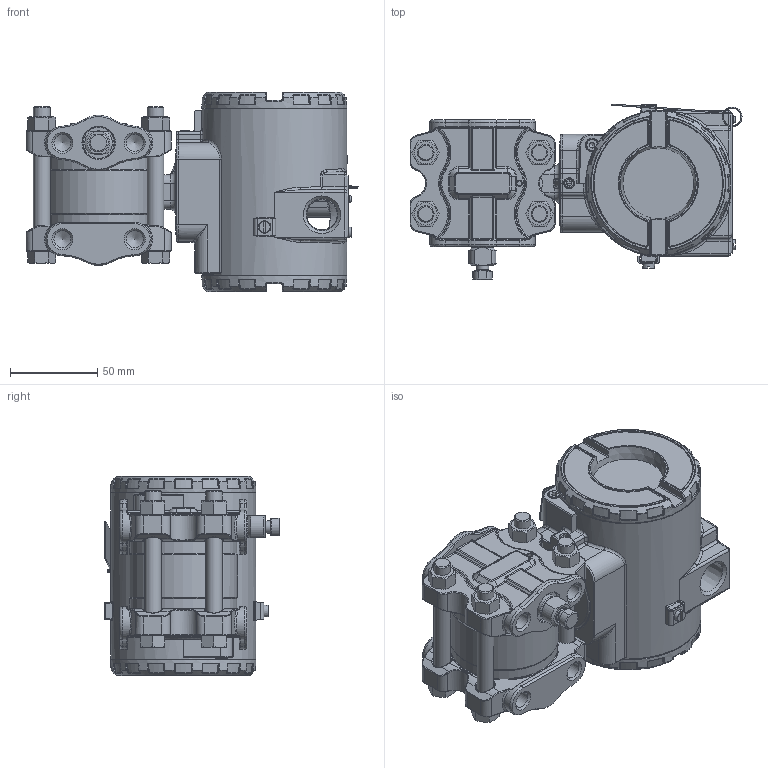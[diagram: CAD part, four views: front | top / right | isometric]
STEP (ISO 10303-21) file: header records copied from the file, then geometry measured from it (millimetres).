
FILE_DESCRIPTION(/* description */ (''),/* implementation_level */ '2;1');
FILE_NAME(/* name */ 'F:\Area\Desenvolvimento_2\Projects\Sensor\projetos\LD30X\montagens 3d - clientes\LD30XM4 1-4NPT purga oposta.stp',/* time_stamp */ '2023-01-26T13:41:10-03:00',/* author */ ('inventor02'),/* organization */ (''),/* preprocessor_version */ 'ST-DEVELOPER v17',/* originating_system */ 'Autodesk Inventor 2019',/* authorisation */ '');
FILE_SCHEMA (('CONFIG_CONTROL_DESIGN'));
Length unit declared in the file: millimetre
Products named in the file (30): LD30XM4 1-4NPT purga oposta; manometrico standard fx4 purga oposta; Flange manometrico standard; flange diferencial std sem purga; involucro fx4 apos a usinagem final; Paraf. 3-8 x 16 UNC; Porca 3-8 x 16 UNC; 075-B-0046-purgador; Sangria; carcaça vazia com tampas e plaqueta; carcaça LD inox sem letras; Subconjunto plaqueta 300; Plaqueta transmissor; Parafuso da Plaqueta; Rebite da Plaqueta; 096-A-0169-03; 101-A-0502-01; Chapa aterramento externo; ISO 1207 - M4 x 8; DIN 915 - M6 x 10; ANSI B18.3.1M - M4x0,7 x 8; Subconjunto tampa com visor aluminio; tampa pintada; VIDRO DO VISOR; oring 41x1 vidro tampa; Trava do vidro da tampa com visor; trava do vidro VH256; Subconjunto tampa sem visor-aluminio; tampa cega 300 pintada p0; 00034775-0
Assembly tree (37 placements, depth 4):
  LD30XM4 1-4NPT purga oposta
    manometrico standard fx4 purga oposta
      Flange manometrico standard
      flange diferencial std sem purga
      involucro fx4 apos a usinagem final
      Paraf. 3-8 x 16 UNC  x4
      Porca 3-8 x 16 UNC  x4
      075-B-0046-purgador
      Sangria
    carcaça vazia com tampas e plaqueta
      carcaça LD inox sem letras
      Subconjunto plaqueta 300
        Plaqueta transmissor
        Parafuso da Plaqueta
        Rebite da Plaqueta
        096-A-0169-03
        101-A-0502-01
      Chapa aterramento externo
      ISO 1207 - M4 x 8
      DIN 915 - M6 x 10
      ANSI B18.3.1M - M4x0,7 x 8  x2
      Subconjunto tampa com visor aluminio
        tampa pintada
        VIDRO DO VISOR
        oring 41x1 vidro tampa
        Trava do vidro da tampa com visor
        trava do vidro VH256
        00034775-0
      Subconjunto tampa sem visor-aluminio
        tampa cega 300 pintada p0
        00034775-0
Bounding box: 189.79 x 100.6 x 114 mm (x, y, z)
Volume: 570762.5 mm3; surface area: 227568.4 mm2
Topology: 32 solids, 32 shells, 2624 faces, 6295 edges, 3695 vertices
Faces by surface type: bspline 729, cylinder 609, plane 495, torus 448, cone 231, sphere 112
Full cylindrical faces by diameter (mm): 2 x2, 2.1 x2, 2.459 x5, 2.642 x1, 2.7 x1, 3 x4, 3.242 x4, 3.5 x4, 3.571 x1, 4 x4, 4.3 x1, 4.4 x1, 4.917 x1, 5.5 x3, 6 x2, 6.8 x1, 7 x5, 7.087 x2, 7.6 x2, 7.798 x4, 8 x1, 8.7 x2, 9.525 x4, 9.728 x8, 10.5 x8, 10.719 x2, 13.8 x1, 14 x1, 17.475 x2, 18.5 x2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
Entity records: 93422 total; most frequent: CARTESIAN_POINT 36244, ORIENTED_EDGE 12018, DIRECTION 11540, EDGE_CURVE 6009, AXIS2_PLACEMENT_3D 5083, VERTEX_POINT 3569, CIRCLE 2991, EDGE_LOOP 2636
